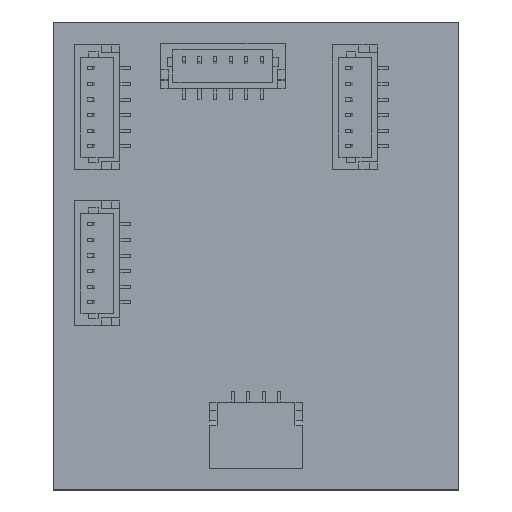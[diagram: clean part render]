
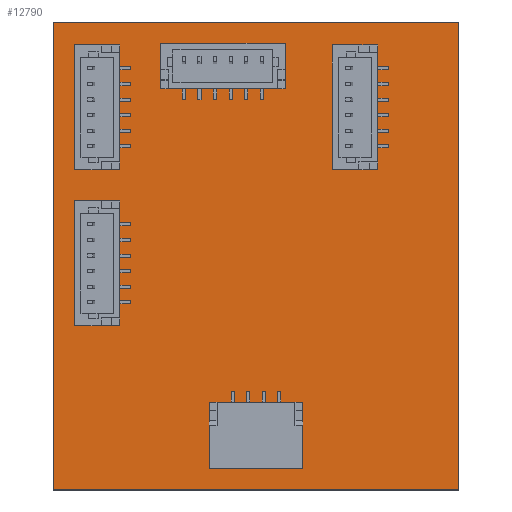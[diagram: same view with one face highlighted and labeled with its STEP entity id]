
A CAD part, top view. The second image highlights one B-rep face of the part: STEP entity #12790.
In plain terms, the highlighted planar face has unit normal (0, 0, 1).
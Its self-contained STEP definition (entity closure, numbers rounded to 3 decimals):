
#12661 = VERTEX_POINT('',#12662);
#12662 = CARTESIAN_POINT('',(26.,-30.,1.11));
#12668 = EDGE_CURVE('',#12661,#12669,#12671,.T.);
#12669 = VERTEX_POINT('',#12670);
#12670 = CARTESIAN_POINT('',(0.,-30.,1.11));
#12671 = LINE('',#12672,#12673);
#12672 = CARTESIAN_POINT('',(26.,-30.,1.11));
#12673 = VECTOR('',#12674,1.);
#12674 = DIRECTION('',(-1.,0.,0.));
#12699 = EDGE_CURVE('',#12669,#12700,#12702,.T.);
#12700 = VERTEX_POINT('',#12701);
#12701 = CARTESIAN_POINT('',(0.,0.,1.11));
#12702 = LINE('',#12703,#12704);
#12703 = CARTESIAN_POINT('',(0.,-30.,1.11));
#12704 = VECTOR('',#12705,1.);
#12705 = DIRECTION('',(0.,1.,0.));
#12730 = EDGE_CURVE('',#12700,#12731,#12733,.T.);
#12731 = VERTEX_POINT('',#12732);
#12732 = CARTESIAN_POINT('',(26.,0.,1.11));
#12733 = LINE('',#12734,#12735);
#12734 = CARTESIAN_POINT('',(0.,0.,1.11));
#12735 = VECTOR('',#12736,1.);
#12736 = DIRECTION('',(1.,0.,0.));
#12761 = EDGE_CURVE('',#12731,#12661,#12762,.T.);
#12762 = LINE('',#12763,#12764);
#12763 = CARTESIAN_POINT('',(26.,0.,1.11));
#12764 = VECTOR('',#12765,1.);
#12765 = DIRECTION('',(0.,-1.,0.));
#12790 = ADVANCED_FACE('',(#12791),#12797,.T.);
#12791 = FACE_BOUND('',#12792,.F.);
#12792 = EDGE_LOOP('',(#12793,#12794,#12795,#12796));
#12793 = ORIENTED_EDGE('',*,*,#12668,.T.);
#12794 = ORIENTED_EDGE('',*,*,#12699,.T.);
#12795 = ORIENTED_EDGE('',*,*,#12730,.T.);
#12796 = ORIENTED_EDGE('',*,*,#12761,.T.);
#12797 = PLANE('',#12798);
#12798 = AXIS2_PLACEMENT_3D('',#12799,#12800,#12801);
#12799 = CARTESIAN_POINT('',(0.,0.,1.11));
#12800 = DIRECTION('',(0.,0.,1.));
#12801 = DIRECTION('',(1.,0.,-0.));
